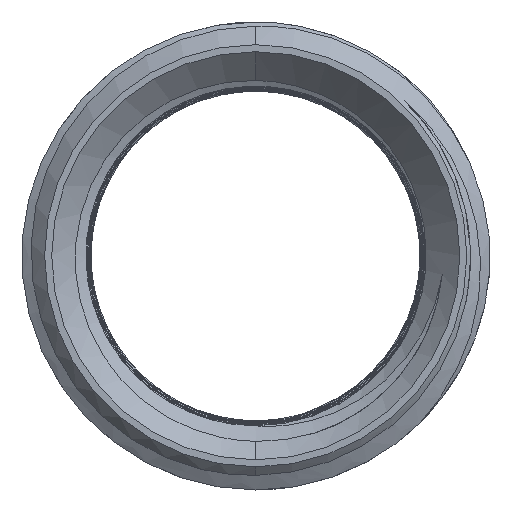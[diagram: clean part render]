
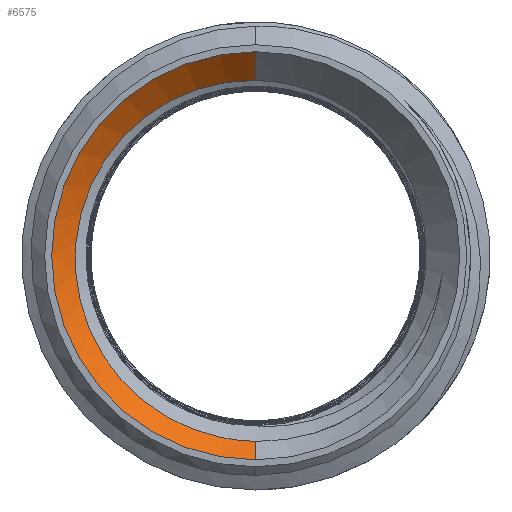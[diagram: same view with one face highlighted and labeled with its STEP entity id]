
A CAD part, left-side view. The second image highlights one B-rep face of the part: STEP entity #6575.
In plain terms, the highlighted conical face has half-angle 45 degrees and reference radius 11.575 mm.
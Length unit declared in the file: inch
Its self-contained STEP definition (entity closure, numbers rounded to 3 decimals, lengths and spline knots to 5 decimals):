
#60 = DIRECTION ( 'NONE',  ( 1., 0., 0. ) ) ;
#61 = CARTESIAN_POINT ( 'NONE',  ( -0.33, 0., 0. ) ) ;
#66 = AXIS2_PLACEMENT_3D ( 'NONE', #61, #60, #67 ) ;
#67 = DIRECTION ( 'NONE',  ( 0., 0., -1. ) ) ;
#84 = CIRCLE ( 'NONE', #66, 0.45571 ) ;
#1493 = CARTESIAN_POINT ( 'NONE',  ( -0.28271, 0.30309, -0.27505 ) ) ;
#1494 = CARTESIAN_POINT ( 'NONE',  ( -0.28223, 0.31974, -0.25472 ) ) ;
#1495 = CARTESIAN_POINT ( 'NONE',  ( -0.28152, 0.34168, -0.22196 ) ) ;
#1496 = CARTESIAN_POINT ( 'NONE',  ( -0.28129, 0.34849, -0.21067 ) ) ;
#1497 = CARTESIAN_POINT ( 'NONE',  ( -0.28081, 0.36105, -0.1873 ) ) ;
#1498 = CARTESIAN_POINT ( 'NONE',  ( -0.28057, 0.36677, -0.17527 ) ) ;
#1499 = CARTESIAN_POINT ( 'NONE',  ( -0.27986, 0.382, -0.13878 ) ) ;
#1500 = CARTESIAN_POINT ( 'NONE',  ( -0.27938, 0.38971, -0.11369 ) ) ;
#1501 = CARTESIAN_POINT ( 'NONE',  ( -0.27866, 0.3976, -0.07489 ) ) ;
#1502 = CARTESIAN_POINT ( 'NONE',  ( -0.27842, 0.39962, -0.06169 ) ) ;
#1503 = CARTESIAN_POINT ( 'NONE',  ( -0.27794, 0.40232, -0.03534 ) ) ;
#1504 = CARTESIAN_POINT ( 'NONE',  ( -0.27771, 0.40302, -0.02219 ) ) ;
#1505 = CARTESIAN_POINT ( 'NONE',  ( -0.27699, 0.4032, 0.01721 ) ) ;
#1506 = CARTESIAN_POINT ( 'NONE',  ( -0.27651, 0.40076, 0.0434 ) ) ;
#1507 = CARTESIAN_POINT ( 'NONE',  ( -0.27553, 0.39059, 0.09561 ) ) ;
#1508 = CARTESIAN_POINT ( 'NONE',  ( -0.27506, 0.38301, 0.12088 ) ) ;
#1509 = CARTESIAN_POINT ( 'NONE',  ( -0.27434, 0.36806, 0.15732 ) ) ;
#1510 = CARTESIAN_POINT ( 'NONE',  ( -0.2741, 0.36247, 0.16924 ) ) ;
#1511 = CARTESIAN_POINT ( 'NONE',  ( -0.27361, 0.35006, 0.1926 ) ) ;
#1512 = CARTESIAN_POINT ( 'NONE',  ( -0.27336, 0.3432, 0.20407 ) ) ;
#1513 = CARTESIAN_POINT ( 'NONE',  ( -0.27263, 0.32122, 0.23705 ) ) ;
#1514 = CARTESIAN_POINT ( 'NONE',  ( -0.27216, 0.30457, 0.25736 ) ) ;
#1515 = CARTESIAN_POINT ( 'NONE',  ( -0.27143, 0.2766, 0.28529 ) ) ;
#1516 = CARTESIAN_POINT ( 'NONE',  ( -0.27118, 0.26673, 0.29421 ) ) ;
#1517 = CARTESIAN_POINT ( 'NONE',  ( -0.27069, 0.24615, 0.311 ) ) ;
#1518 = CARTESIAN_POINT ( 'NONE',  ( -0.27044, 0.23552, 0.31881 ) ) ;
#1519 = CARTESIAN_POINT ( 'NONE',  ( -0.26971, 0.20263, 0.34058 ) ) ;
#1520 = CARTESIAN_POINT ( 'NONE',  ( -0.26923, 0.17938, 0.35286 ) ) ;
#1521 = CARTESIAN_POINT ( 'NONE',  ( -0.26849, 0.14246, 0.3678 ) ) ;
#1522 = CARTESIAN_POINT ( 'NONE',  ( -0.26824, 0.12988, 0.37216 ) ) ;
#1523 = CARTESIAN_POINT ( 'NONE',  ( -0.26775, 0.10458, 0.37954 ) ) ;
#1524 = CARTESIAN_POINT ( 'NONE',  ( -0.2675, 0.0918, 0.38257 ) ) ;
#1525 = CARTESIAN_POINT ( 'NONE',  ( -0.26701, 0.06597, 0.38736 ) ) ;
#1526 = CARTESIAN_POINT ( 'NONE',  ( -0.26676, 0.05293, 0.38912 ) ) ;
#1527 = CARTESIAN_POINT ( 'NONE',  ( -0.26627, 0.02659, 0.39131 ) ) ;
#1528 = CARTESIAN_POINT ( 'NONE',  ( -0.26603, 0.01322, 0.39174 ) ) ;
#1529 = CARTESIAN_POINT ( 'NONE',  ( -0.26578, 0., 0.39149 ) ) ;
#1530 = B_SPLINE_CURVE_WITH_KNOTS ( 'NONE', 3,
 ( #1529, #1528, #1527, #1526, #1525, #1524, #1523, #1522, #1521, #1520, #1519, #1518, #1517, #1516, #1515, #1514, #1513, #1512, #1511, #1510, #1509, #1508, #1507, #1506, #1505, #1504, #1503, #1502, #1501, #1500, #1499, #1498, #1497, #1496, #1495, #1494, #1493, #1662, #1661, #1660, #1659, #1658, #1657, #1656, #1655, #1654, #1653, #1652, #1651, #1650, #1649 ),
 .UNSPECIFIED., .F., .F.,
 ( 4, 2, 2, 2, 2, 2, 2, 2, 2, 2, 2, 2, 2, 2, 2, 2, 2, 2, 2, 2, 1, 2, 2, 2, 2, 4 ),
 ( 0.01507, 0.01608, 0.01708, 0.01809, 0.0191, 0.02111, 0.02212, 0.02313, 0.02515, 0.02615, 0.02716, 0.02918, 0.03119, 0.0322, 0.03321, 0.03522, 0.03623, 0.03724, 0.03925, 0.04026, 0.04127, 0.04228, 0.04328, 0.0453, 0.04631, 0.04731 ),
 .UNSPECIFIED. ) ;
#1649 = CARTESIAN_POINT ( 'NONE',  ( -0.28883, 0., -0.41454 ) ) ;
#1650 = CARTESIAN_POINT ( 'NONE',  ( -0.2886, 0.01318, -0.41431 ) ) ;
#1651 = CARTESIAN_POINT ( 'NONE',  ( -0.28836, 0.02647, -0.41344 ) ) ;
#1652 = CARTESIAN_POINT ( 'NONE',  ( -0.28788, 0.05283, -0.41042 ) ) ;
#1653 = CARTESIAN_POINT ( 'NONE',  ( -0.28765, 0.06584, -0.4083 ) ) ;
#1654 = CARTESIAN_POINT ( 'NONE',  ( -0.28695, 0.1044, -0.4001 ) ) ;
#1655 = CARTESIAN_POINT ( 'NONE',  ( -0.28649, 0.12947, -0.39224 ) ) ;
#1656 = CARTESIAN_POINT ( 'NONE',  ( -0.28578, 0.16608, -0.37672 ) ) ;
#1657 = CARTESIAN_POINT ( 'NONE',  ( -0.28554, 0.1781, -0.37093 ) ) ;
#1658 = CARTESIAN_POINT ( 'NONE',  ( -0.28507, 0.20127, -0.35834 ) ) ;
#1659 = CARTESIAN_POINT ( 'NONE',  ( -0.28459, 0.22374, -0.34469 ) ) ;
#1660 = CARTESIAN_POINT ( 'NONE',  ( -0.28413, 0.24479, -0.32897 ) ) ;
#1661 = CARTESIAN_POINT ( 'NONE',  ( -0.28366, 0.26513, -0.31219 ) ) ;
#1662 = CARTESIAN_POINT ( 'NONE',  ( -0.28342, 0.275, -0.30323 ) ) ;
#4305 = LINE ( 'NONE', #4453, #4452 ) ;
#4451 = DIRECTION ( 'NONE',  ( -0.707, 0., 0.707 ) ) ;
#4452 = VECTOR ( 'NONE', #4451, 39.37008 ) ;
#4453 = CARTESIAN_POINT ( 'NONE',  ( -0.33, 0., 0.45571 ) ) ;
#4485 = CARTESIAN_POINT ( 'NONE',  ( -0.33, 0., -0.45571 ) ) ;
#5185 = DIRECTION ( 'NONE',  ( -0.707, 0., -0.707 ) ) ;
#5186 = VECTOR ( 'NONE', #5185, 39.37008 ) ;
#5187 = CARTESIAN_POINT ( 'NONE',  ( -0.33, 0., -0.45571 ) ) ;
#5188 = LINE ( 'NONE', #5187, #5186 ) ;
#5196 = CARTESIAN_POINT ( 'NONE',  ( -0.26578, 0., 0.39149 ) ) ;
#5332 = CARTESIAN_POINT ( 'NONE',  ( -0.28883, 0., -0.41454 ) ) ;
#5474 = CARTESIAN_POINT ( 'NONE',  ( -0.33, 0., 0.45571 ) ) ;
#6337 = EDGE_CURVE ( 'NONE', #6458, #6471, #4305, .T. ) ;
#6340 = VERTEX_POINT ( 'NONE', #4485 ) ;
#6457 = VERTEX_POINT ( 'NONE', #5332 ) ;
#6458 = VERTEX_POINT ( 'NONE', #5196 ) ;
#6460 = EDGE_CURVE ( 'NONE', #6457, #6340, #5188, .T. ) ;
#6471 = VERTEX_POINT ( 'NONE', #5474 ) ;
#6575 = ADVANCED_FACE ( 'NONE', ( #8915 ), #8966, .F. ) ;
#6576 = EDGE_LOOP ( 'NONE', ( #6577, #6641, #6782, #6779 ) ) ;
#6577 = ORIENTED_EDGE ( 'NONE', *, *, #6460, .F. ) ;
#6641 = ORIENTED_EDGE ( 'NONE', *, *, #6781, .F. ) ;
#6683 = EDGE_CURVE ( 'NONE', #6340, #6471, #84, .T. ) ;
#6779 = ORIENTED_EDGE ( 'NONE', *, *, #6683, .F. ) ;
#6781 = EDGE_CURVE ( 'NONE', #6458, #6457, #1530, .T. ) ;
#6782 = ORIENTED_EDGE ( 'NONE', *, *, #6337, .T. ) ;
#8915 = FACE_OUTER_BOUND ( 'NONE', #6576, .T. ) ;
#8925 = DIRECTION ( 'NONE',  ( 0., 0., 1. ) ) ;
#8926 = DIRECTION ( 'NONE',  ( -1., 0., 0. ) ) ;
#8959 = CARTESIAN_POINT ( 'NONE',  ( -0.33, 0., 0. ) ) ;
#8960 = AXIS2_PLACEMENT_3D ( 'NONE', #8959, #8926, #8925 ) ;
#8966 = CONICAL_SURFACE ( 'NONE', #8960, 0.45571, 0.785 ) ;
